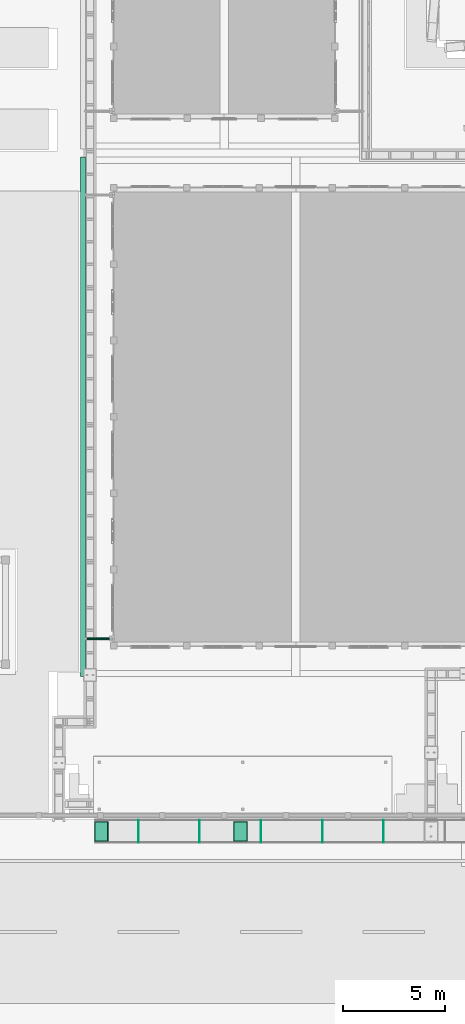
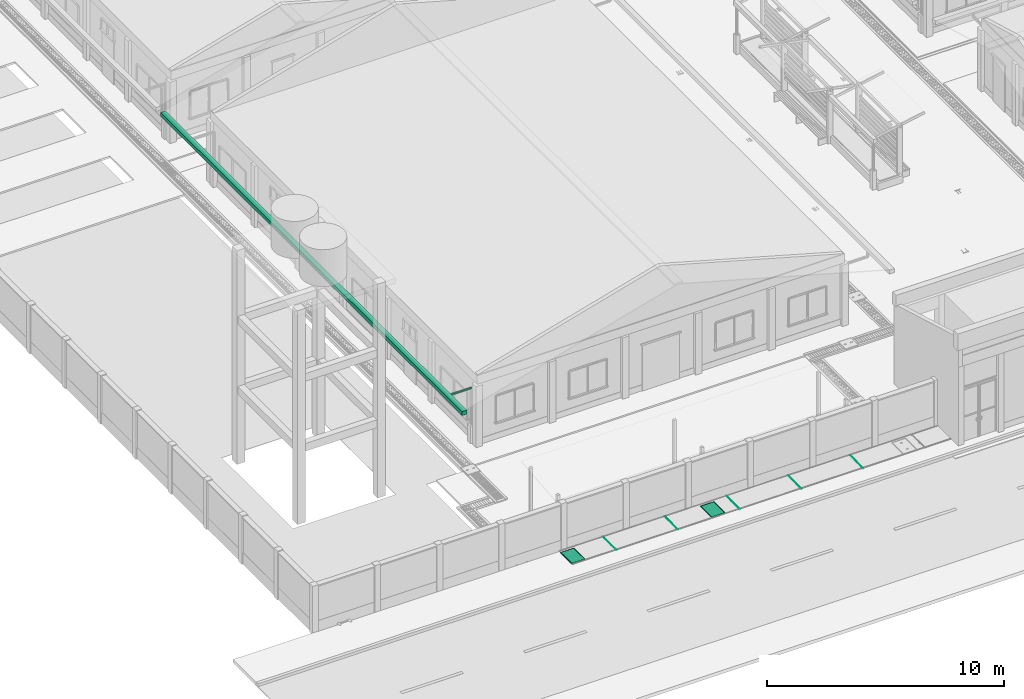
# One storey, part 87 of 151: 7 flow segments, 4 distribution chamber elements.
"""IFC2X3 building model written with IfcOpenShell, lengths in metres."""

from ifc_helpers import new_model, si_unit, origin, origin_with_axes, place, context, subcontext, project, spatial, faceted_brep, element, save


model = new_model("IFC2X3")

# Units and contexts
model_context = context("Model", 3, precision=1e-05, world=origin_with_axes())
body_context = subcontext(model_context, "Body", "Model", "MODEL_VIEW")
ifc_project = project(units=[si_unit("LENGTHUNIT", "METRE"), si_unit("AREAUNIT", "SQUARE_METRE"), si_unit("VOLUMEUNIT", "CUBIC_METRE"), si_unit("PLANEANGLEUNIT", "RADIAN")], contexts=[model_context])

# Site, building, storey
site_placement = place(None, origin_with_axes())
site = spatial("IfcSite", under=ifc_project, at=site_placement, Name="Predio Los Mangos - Morales, San Martín", CompositionType="ELEMENT")
building_placement = place(site_placement, origin())
building = spatial("IfcBuilding", under=site, at=building_placement, Name="Hogar de Refugio Temporal", CompositionType="ELEMENT")
storey_placement = place(building_placement, origin())
storey = spatial("IfcBuildingStorey", under=building, at=storey_placement, Name="NIVEL 1 (NPT +0.00)", CompositionType="ELEMENT", Elevation=0.0)

# Flow segments
flow_segment_1_placement = place(storey_placement, origin())
element("IfcFlowSegment", 1, at=flow_segment_1_placement, inside=storey, Name="E-01_canaleta", ObjectType="Canaleta", context=body_context, shape_type="Brep", body=[
    faceted_brep([(12.18, 24.8, 3.13), (12.18, 50.2, 3.13), (12.42, 50.2, 3.13), (12.42, 24.8, 3.13), (12.18, 24.8, 3.33), (12.42, 24.8, 3.33), (12.42, 50.2, 3.33), (12.18, 50.2, 3.33)], [[[0, 1, 2, 3]], [[4, 5, 6, 7]], [[0, 3, 5, 4]], [[3, 2, 6, 5]], [[2, 1, 7, 6]], [[1, 0, 4, 7]]]),
])
flow_segment_2_placement = place(storey_placement, origin())
element("IfcFlowSegment", 2, at=flow_segment_2_placement, inside=storey, Name="montante_desvio", ObjectType="Montante PVC 4\"", context=body_context, shape_type="Brep", body=[
    faceted_brep([(12.42, 26.65, 2.965), (13.71, 26.65, 2.965), (13.71, 26.6775, 2.9576), (12.42, 26.6775, 2.9576), (13.71, 26.6976, 2.9375), (12.42, 26.6976, 2.9375), (13.71, 26.705, 2.91), (12.42, 26.705, 2.91), (13.71, 26.6976, 2.8825), (12.42, 26.6976, 2.8825), (13.71, 26.6775, 2.8624), (12.42, 26.6775, 2.8624), (13.71, 26.65, 2.855), (12.42, 26.65, 2.855), (13.71, 26.6225, 2.8624), (12.42, 26.6225, 2.8624), (13.71, 26.6024, 2.8825), (12.42, 26.6024, 2.8825), (13.71, 26.595, 2.91), (12.42, 26.595, 2.91), (13.71, 26.6024, 2.9375), (12.42, 26.6024, 2.9375), (13.71, 26.6225, 2.9576), (12.42, 26.6225, 2.9576)], [[[0, 1, 2, 3]], [[3, 2, 4, 5]], [[5, 4, 6, 7]], [[7, 6, 8, 9]], [[9, 8, 10, 11]], [[11, 10, 12, 13]], [[13, 12, 14, 15]], [[15, 14, 16, 17]], [[17, 16, 18, 19]], [[19, 18, 20, 21]], [[2, 1, 22, 20, 18, 16, 14, 12, 10, 8, 6, 4]], [[21, 20, 22, 23]], [[23, 22, 1, 0]], [[0, 3, 5, 7, 9, 11, 13, 15, 17, 19, 21, 23]]]),
])
flow_segment_3_placement = place(storey_placement, origin())
element("IfcFlowSegment", 3, at=flow_segment_3_placement, inside=storey, Name="junta_losa", ObjectType="Colector frontal b=0.80 (losa-vereda)", context=body_context, shape_type="Brep", body=[
    faceted_brep([(26.9873, 16.665, 0.15), (26.9873, 17.79, 0.15), (27.0127, 17.79, 0.15), (27.0127, 16.665, 0.15), (26.9873, 16.665, 0.1635), (27.0127, 16.665, 0.1635), (27.0127, 17.79, 0.1635), (26.9873, 17.79, 0.1635)], [[[0, 1, 2, 3]], [[4, 5, 6, 7]], [[0, 3, 5, 4]], [[3, 2, 6, 5]], [[2, 1, 7, 6]], [[1, 0, 4, 7]]]),
])
flow_segment_4_placement = place(storey_placement, origin())
element("IfcFlowSegment", 4, at=flow_segment_4_placement, inside=storey, Name="junta_losa", ObjectType="Colector frontal b=0.80 (losa-vereda)", context=body_context, shape_type="Brep", body=[
    faceted_brep([(23.9873, 16.665, 0.15), (23.9873, 17.79, 0.15), (24.0127, 17.79, 0.15), (24.0127, 16.665, 0.15), (23.9873, 16.665, 0.1635), (24.0127, 16.665, 0.1635), (24.0127, 17.79, 0.1635), (23.9873, 17.79, 0.1635)], [[[0, 1, 2, 3]], [[4, 5, 6, 7]], [[0, 3, 5, 4]], [[3, 2, 6, 5]], [[2, 1, 7, 6]], [[1, 0, 4, 7]]]),
])
flow_segment_5_placement = place(storey_placement, origin())
element("IfcFlowSegment", 5, at=flow_segment_5_placement, inside=storey, Name="junta_losa", ObjectType="Colector frontal b=0.80 (losa-vereda)", context=body_context, shape_type="Brep", body=[
    faceted_brep([(20.9873, 16.665, 0.15), (20.9873, 17.79, 0.15), (21.0127, 17.79, 0.15), (21.0127, 16.665, 0.15), (20.9873, 16.665, 0.1635), (21.0127, 16.665, 0.1635), (21.0127, 17.79, 0.1635), (20.9873, 17.79, 0.1635)], [[[0, 1, 2, 3]], [[4, 5, 6, 7]], [[0, 3, 5, 4]], [[3, 2, 6, 5]], [[2, 1, 7, 6]], [[1, 0, 4, 7]]]),
])
flow_segment_6_placement = place(storey_placement, origin())
element("IfcFlowSegment", 6, at=flow_segment_6_placement, inside=storey, Name="junta_losa", ObjectType="Colector frontal b=0.80 (losa-vereda)", context=body_context, shape_type="Brep", body=[
    faceted_brep([(17.9873, 16.665, 0.15), (17.9873, 17.79, 0.15), (18.0127, 17.79, 0.15), (18.0127, 16.665, 0.15), (17.9873, 16.665, 0.1635), (18.0127, 16.665, 0.1635), (18.0127, 17.79, 0.1635), (17.9873, 17.79, 0.1635)], [[[0, 1, 2, 3]], [[4, 5, 6, 7]], [[0, 3, 5, 4]], [[3, 2, 6, 5]], [[2, 1, 7, 6]], [[1, 0, 4, 7]]]),
])
flow_segment_7_placement = place(storey_placement, origin())
element("IfcFlowSegment", 7, at=flow_segment_7_placement, inside=storey, Name="junta_losa", ObjectType="Colector frontal b=0.80 (losa-vereda)", context=body_context, shape_type="Brep", body=[
    faceted_brep([(14.9873, 16.665, 0.15), (14.9873, 17.79, 0.15), (15.0127, 17.79, 0.15), (15.0127, 16.665, 0.15), (14.9873, 16.665, 0.1635), (15.0127, 16.665, 0.1635), (15.0127, 17.79, 0.1635), (14.9873, 17.79, 0.1635)], [[[0, 1, 2, 3]], [[4, 5, 6, 7]], [[0, 3, 5, 4]], [[3, 2, 6, 5]], [[2, 1, 7, 6]], [[1, 0, 4, 7]]]),
])

# Distribution chamber elements
distribution_chamber_element_1_placement = place(storey_placement, origin())
element("IfcDistributionChamberElement", 8, at=distribution_chamber_element_1_placement, inside=storey, Name="tapa_junta", ObjectType="Tapa ciega de registro del colector", context=body_context, shape_type="Brep", body=[
    faceted_brep([(19.655, 16.72, 0.161), (19.655, 17.71, 0.161), (20.345, 17.71, 0.161), (20.345, 16.72, 0.161), (19.655, 16.72, 0.164), (20.345, 16.72, 0.164), (20.345, 17.71, 0.164), (19.655, 17.71, 0.164)], [[[0, 1, 2, 3]], [[4, 5, 6, 7]], [[0, 3, 5, 4]], [[3, 2, 6, 5]], [[2, 1, 7, 6]], [[1, 0, 4, 7]]]),
])
distribution_chamber_element_2_placement = place(storey_placement, origin())
element("IfcDistributionChamberElement", 9, at=distribution_chamber_element_2_placement, inside=storey, Name="tapa_ciega", ObjectType="Tapa ciega de registro del colector", context=body_context, shape_type="Brep", body=[
    faceted_brep([(19.69, 16.755, 0.161), (19.69, 17.675, 0.161), (20.31, 17.675, 0.161), (20.31, 16.755, 0.161), (19.69, 16.755, 0.17), (20.31, 16.755, 0.17), (20.31, 17.675, 0.17), (19.69, 17.675, 0.17)], [[[0, 1, 2, 3]], [[4, 5, 6, 7]], [[0, 3, 5, 4]], [[3, 2, 6, 5]], [[2, 1, 7, 6]], [[1, 0, 4, 7]]]),
])
distribution_chamber_element_3_placement = place(storey_placement, origin())
element("IfcDistributionChamberElement", 10, at=distribution_chamber_element_3_placement, inside=storey, Name="tapa_junta", ObjectType="Tapa ciega de registro del colector", context=body_context, shape_type="Brep", body=[
    faceted_brep([(12.845, 16.72, 0.161), (12.845, 17.71, 0.161), (13.535, 17.71, 0.161), (13.535, 16.72, 0.161), (12.845, 16.72, 0.164), (13.535, 16.72, 0.164), (13.535, 17.71, 0.164), (12.845, 17.71, 0.164)], [[[0, 1, 2, 3]], [[4, 5, 6, 7]], [[0, 3, 5, 4]], [[3, 2, 6, 5]], [[2, 1, 7, 6]], [[1, 0, 4, 7]]]),
])
distribution_chamber_element_4_placement = place(storey_placement, origin())
element("IfcDistributionChamberElement", 11, at=distribution_chamber_element_4_placement, inside=storey, Name="tapa_ciega", ObjectType="Tapa ciega de registro del colector", context=body_context, shape_type="Brep", body=[
    faceted_brep([(12.88, 16.755, 0.161), (12.88, 17.675, 0.161), (13.5, 17.675, 0.161), (13.5, 16.755, 0.161), (12.88, 16.755, 0.17), (13.5, 16.755, 0.17), (13.5, 17.675, 0.17), (12.88, 17.675, 0.17)], [[[0, 1, 2, 3]], [[4, 5, 6, 7]], [[0, 3, 5, 4]], [[3, 2, 6, 5]], [[2, 1, 7, 6]], [[1, 0, 4, 7]]]),
])

save(model, "model.ifc")
